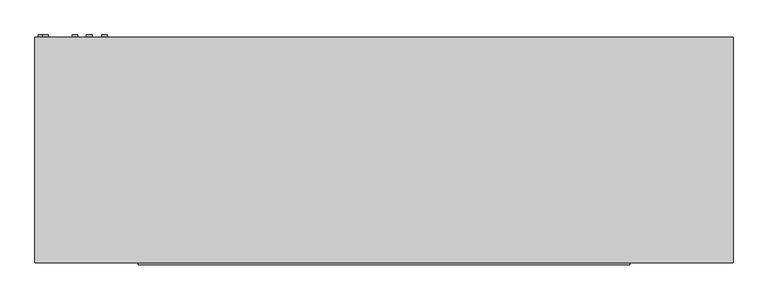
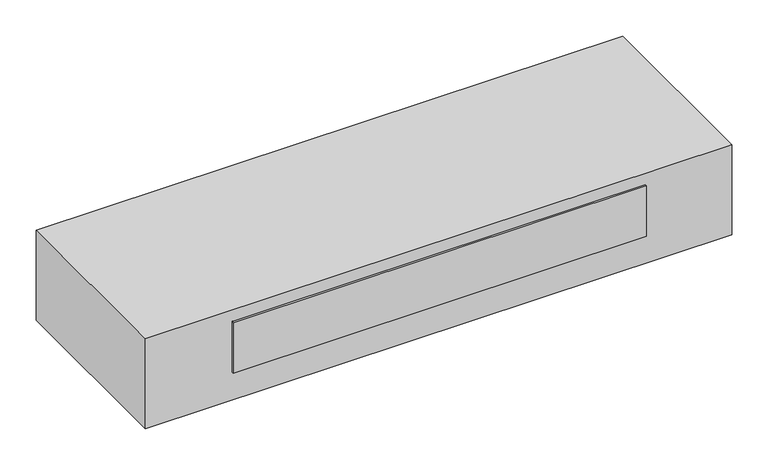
"""IFC4 building model written with IfcOpenShell, lengths in millimetres: proxy geometry, Exposed_Horizontal_Fan_Coil_Unit_-_42CGB_-_CARRIER_-_4-Pipe_FS-BR_LH_2022 : Size 10 - 277v/60Hz/1Ph - 4/1 Coil."""

from ifc_helpers import new_model, si_unit, point, frame, frame_2d, origin, place, context, project, spatial, polyline, circle_curve, trimmed, segment, composite_curve, outline, extrude, source, transform, mapped, element, save


def mechanical_equipment_cb84b873(model_context):
    return source(origin(), model_context, "Body", "SweptSolid", [
        extrude(outline(composite_curve([segment(trimmed(circle_curve(frame_2d((-261.434158, -768.5546393)), 9.525), [point((-261.434158, -759.0296393))], [point((-261.434158, -778.0796393))], False, "CARTESIAN"), True, "CONTINUOUS"), segment(trimmed(circle_curve(frame_2d((-261.434158, -768.5546393)), 9.525), [point((-261.434158, -778.0796393))], [point((-261.434158, -759.0296393))], False, "CARTESIAN"), True, "CONTINUOUS")], self_intersect=False)), frame((0.0, 65.0875, 0.0), z_axis=(0.0, 1.0, 0.0), x_axis=(0.0, 0.0, 1.0)), (0.0, 0.0, 1.0), 6.35),
        extrude(outline(composite_curve([segment(trimmed(circle_curve(frame_2d((-85.725, -758.825)), 7.9375), [point((-85.725, -750.8875))], [point((-85.725, -766.7625))], False, "CARTESIAN"), True, "CONTINUOUS"), segment(trimmed(circle_curve(frame_2d((-85.725, -758.825)), 7.9375), [point((-85.725, -766.7625))], [point((-85.725, -750.8875))], False, "CARTESIAN"), True, "CONTINUOUS")], self_intersect=False)), frame((0.0, 65.0875, 0.0), z_axis=(0.0, 1.0, 0.0), x_axis=(0.0, 0.0, 1.0)), (0.0, 0.0, 1.0), 6.35),
        extrude(outline(composite_curve([segment(trimmed(circle_curve(frame_2d((-44.45, -679.45)), 7.9375), [point((-44.45, -671.5125))], [point((-44.45, -687.3875))], False, "CARTESIAN"), True, "CONTINUOUS"), segment(trimmed(circle_curve(frame_2d((-44.45, -679.45)), 7.9375), [point((-44.45, -687.3875))], [point((-44.45, -671.5125))], False, "CARTESIAN"), True, "CONTINUOUS")], self_intersect=False)), frame((0.0, 65.0875, 0.0), z_axis=(0.0, 1.0, 0.0), x_axis=(0.0, 0.0, 1.0)), (0.0, 0.0, 1.0), 6.35),
        extrude(outline(composite_curve([segment(trimmed(circle_curve(frame_2d((-95.25, -641.35)), 7.9375), [point((-95.25, -633.4125))], [point((-95.25, -649.2875))], False, "CARTESIAN"), True, "CONTINUOUS"), segment(trimmed(circle_curve(frame_2d((-95.25, -641.35)), 7.9375), [point((-95.25, -649.2875))], [point((-95.25, -633.4125))], False, "CARTESIAN"), True, "CONTINUOUS")], self_intersect=False)), frame((0.0, 65.0875, 0.0), z_axis=(0.0, 1.0, 0.0), x_axis=(0.0, 0.0, 1.0)), (0.0, 0.0, 1.0), 6.35),
        extrude(outline(composite_curve([segment(trimmed(circle_curve(frame_2d((-60.325, -600.075)), 7.9375), [point((-60.325, -592.1375))], [point((-60.325, -608.0125))], False, "CARTESIAN"), True, "CONTINUOUS"), segment(trimmed(circle_curve(frame_2d((-60.325, -600.075)), 7.9375), [point((-60.325, -608.0125))], [point((-60.325, -592.1375))], False, "CARTESIAN"), True, "CONTINUOUS")], self_intersect=False)), frame((0.0, 65.0875, 0.0), z_axis=(0.0, 1.0, 0.0), x_axis=(0.0, 0.0, 1.0)), (0.0, 0.0, 1.0), 6.35),
        extrude(outline(polyline([(-787.4, 65.0875), (1092.2, 65.0875), (1092.2, -541.3375), (-787.4, -541.3375), (-787.4, 65.0875)])), frame((0.0, 0.0, -304.8), z_axis=(0.0, 0.0, 1.0), x_axis=(1.0, 0.0, 0.0)), (0.0, 0.0, 1.0), 304.8),
        extrude(outline(polyline([(814.3875, -547.6875), (-509.5875, -547.6875), (-509.5875, -541.3375), (814.3875, -541.3375), (814.3875, -547.6875)])), frame((0.0, 0.0, -209.55), z_axis=(0.0, 0.0, 1.0), x_axis=(1.0, 0.0, 0.0)), (0.0, 0.0, 1.0), 171.45),
        extrude(outline(polyline([(844.55, -11.1125), (844.55, -265.1125), (-539.75, -265.1125), (-539.75, -11.1125), (844.55, -11.1125)])), frame((0.0, 0.0, -311.15), z_axis=(0.0, 0.0, 1.0), x_axis=(1.0, 0.0, 0.0)), (0.0, 0.0, 1.0), 6.35),
    ])


if __name__ == "__main__":
    model = new_model("IFC4")
    model_context = context("Model", 3, world=origin())
    ifc_project = project(units=[si_unit("LENGTHUNIT", "METRE", prefix="MILLI")], contexts=[model_context])
    site = spatial("IfcSite", under=ifc_project)
    building = spatial("IfcBuilding", under=site)
    placement = place(None, origin())
    mechanical_equipment_shape = mechanical_equipment_cb84b873(model_context)
    element("IfcBuildingElementProxy", 1, Name="Exposed_Horizontal_Fan_Coil_Unit_-_42CGB_-_CARRIER_-_4-Pipe_FS-BR_LH_2022 : Size 10 - 277v/60Hz/1Ph - 4/1 Coil", ObjectType="Exposed_Horizontal_Fan_Coil_Unit_-_42CGB_-_CARRIER_-_4-Pipe_FS-BR_LH_2022 : Size 10 - 277v/60Hz/1Ph - 4/1 Coil", at=placement, inside=building, context=model_context, shape_type="MappedRepresentation", body=[
        mapped(mechanical_equipment_shape, transform((0.0, 0.0, 0.0), x_axis=(1.0, 0.0, 0.0), y_axis=(0.0, 1.0, 0.0), z_axis=(0.0, 0.0, 1.0))),
    ])
    save(model, "model.ifc")
